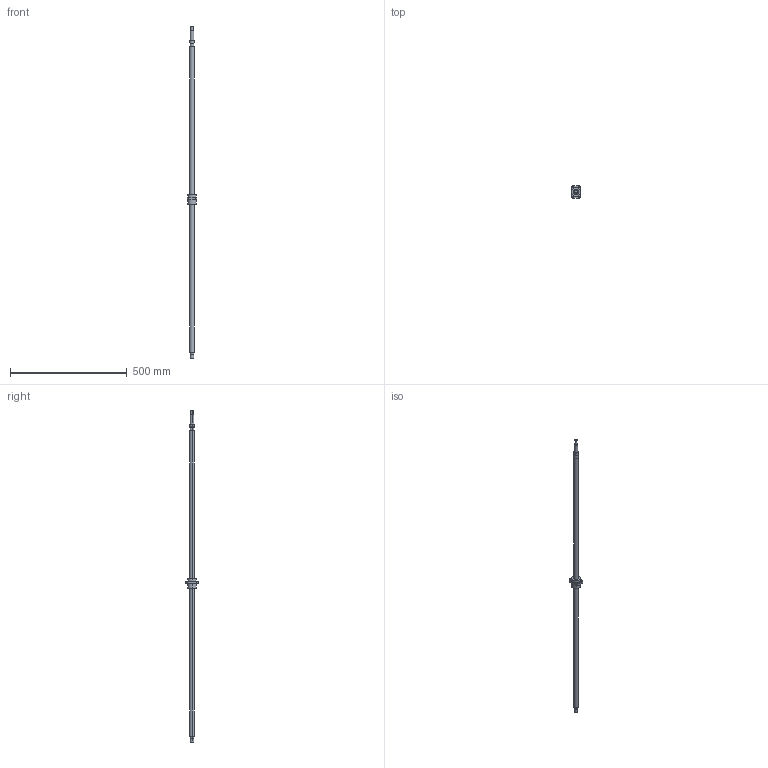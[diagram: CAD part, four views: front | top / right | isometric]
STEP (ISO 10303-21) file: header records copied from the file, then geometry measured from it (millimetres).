
FILE_DESCRIPTION((''),'2;1');
FILE_NAME('2R20-40V2-DFSH-1306-1420','2008-03-27T',('wcwu'),(''),'PRO/ENGINEER BY PARAMETRIC TECHNOLOGY CORPORATION, 2005070','PRO/ENGINEER BY PARAMETRIC TECHNOLOGY CORPORATION, 2005070','');
FILE_SCHEMA(('CONFIG_CONTROL_DESIGN'));
Length unit declared in the file: millimetre
Products named in the file (1): 2R20-40V2-DFSH-1306-1420
Bounding box: 40 x 52 x 1420 mm (x, y, z)
Volume: 473086.8 mm3; surface area: 95073.1 mm2
Topology: 1 solids, 1 shells, 56 faces, 128 edges, 84 vertices
Faces by surface type: cylinder 34, plane 22
Entity records: 1666 total; most frequent: DIRECTION 312, CARTESIAN_POINT 268, ORIENTED_EDGE 256, AXIS2_PLACEMENT_3D 128, EDGE_CURVE 128, VERTEX_POINT 84, EDGE_LOOP 74, CIRCLE 72
